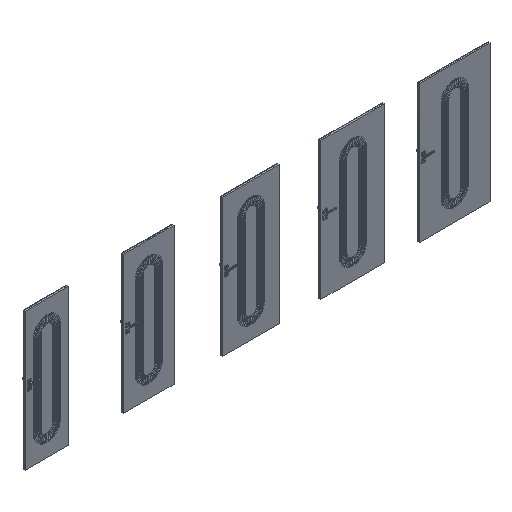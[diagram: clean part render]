
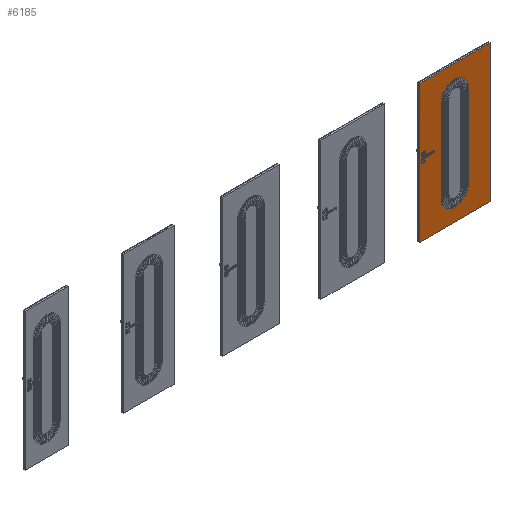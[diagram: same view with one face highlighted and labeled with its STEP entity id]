
A CAD part, isometric view. The second image highlights one B-rep face of the part: STEP entity #6185.
In plain terms, the highlighted planar face has unit normal (0, -1, 0).
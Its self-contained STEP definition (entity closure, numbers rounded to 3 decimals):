
#3721=CIRCLE('',#36410,199.);
#3722=CIRCLE('',#36411,199.);
#4513=FACE_BOUND('',#11191,.T.);
#4514=FACE_BOUND('',#11192,.T.);
#6185=ADVANCED_FACE('',(#4513,#4514),#7263,.F.);
#7263=PLANE('',#36412);
#11191=EDGE_LOOP('',(#18697,#18698,#18699,#18700));
#11192=EDGE_LOOP('',(#18701,#18702,#18703,#18704));
#18697=ORIENTED_EDGE('',*,*,#27489,.T.);
#18698=ORIENTED_EDGE('',*,*,#27490,.F.);
#18699=ORIENTED_EDGE('',*,*,#27491,.F.);
#18700=ORIENTED_EDGE('',*,*,#27492,.T.);
#18701=ORIENTED_EDGE('',*,*,#27493,.F.);
#18702=ORIENTED_EDGE('',*,*,#27494,.F.);
#18703=ORIENTED_EDGE('',*,*,#27495,.F.);
#18704=ORIENTED_EDGE('',*,*,#27496,.T.);
#23301=VERTEX_POINT('',#59420);
#23302=VERTEX_POINT('',#59421);
#23303=VERTEX_POINT('',#59423);
#23304=VERTEX_POINT('',#59425);
#23305=VERTEX_POINT('',#59428);
#23306=VERTEX_POINT('',#59429);
#23307=VERTEX_POINT('',#59431);
#23308=VERTEX_POINT('',#59433);
#27489=EDGE_CURVE('',#23301,#23302,#30409,.T.);
#27490=EDGE_CURVE('',#23303,#23302,#30410,.T.);
#27491=EDGE_CURVE('',#23304,#23303,#30411,.T.);
#27492=EDGE_CURVE('',#23304,#23301,#30412,.T.);
#27493=EDGE_CURVE('',#23305,#23306,#3721,.T.);
#27494=EDGE_CURVE('',#23307,#23305,#30413,.T.);
#27495=EDGE_CURVE('',#23308,#23307,#3722,.T.);
#27496=EDGE_CURVE('',#23308,#23306,#30414,.T.);
#30409=LINE('',#59419,#32649);
#30410=LINE('',#59422,#32650);
#30411=LINE('',#59424,#32651);
#30412=LINE('',#59426,#32652);
#30413=LINE('',#59430,#32653);
#30414=LINE('',#59434,#32654);
#32649=VECTOR('',#45378,1.);
#32650=VECTOR('',#45379,1.);
#32651=VECTOR('',#45380,1.);
#32652=VECTOR('',#45381,1.);
#32653=VECTOR('',#45384,1.);
#32654=VECTOR('',#45387,1.);
#36410=AXIS2_PLACEMENT_3D('',#59427,#45382,#45383);
#36411=AXIS2_PLACEMENT_3D('',#59432,#45385,#45386);
#36412=AXIS2_PLACEMENT_3D('',#59435,#45388,#45389);
#45378=DIRECTION('',(1.,0.,0.));
#45379=DIRECTION('',(0.,0.,-1.));
#45380=DIRECTION('',(1.,0.,0.));
#45381=DIRECTION('',(0.,0.,-1.));
#45382=DIRECTION('',(0.,-1.,0.));
#45383=DIRECTION('',(0.,0.,-1.));
#45384=DIRECTION('',(0.,0.,1.));
#45385=DIRECTION('',(0.,-1.,0.));
#45386=DIRECTION('',(0.,0.,-1.));
#45387=DIRECTION('',(0.,0.,1.));
#45388=DIRECTION('',(0.,1.,0.));
#45389=DIRECTION('',(-1.,0.,0.));
#59419=CARTESIAN_POINT('',(5680.5,-39.3,0.));
#59420=CARTESIAN_POINT('',(5480.5,-39.3,0.));
#59421=CARTESIAN_POINT('',(6519.5,-39.3,0.));
#59422=CARTESIAN_POINT('',(6519.5,-39.3,2027.));
#59423=CARTESIAN_POINT('',(6519.5,-39.3,2027.));
#59424=CARTESIAN_POINT('',(5680.5,-39.3,2027.));
#59425=CARTESIAN_POINT('',(5480.5,-39.3,2027.));
#59426=CARTESIAN_POINT('',(5480.5,-39.3,2027.));
#59427=CARTESIAN_POINT('',(6000.,-39.3,1623.));
#59428=CARTESIAN_POINT('',(6199.,-39.3,1623.));
#59429=CARTESIAN_POINT('',(5801.,-39.3,1623.));
#59430=CARTESIAN_POINT('',(6199.,-39.3,394.));
#59431=CARTESIAN_POINT('',(6199.,-39.3,394.));
#59432=CARTESIAN_POINT('',(6000.,-39.3,394.));
#59433=CARTESIAN_POINT('',(5801.,-39.3,394.));
#59434=CARTESIAN_POINT('',(5801.,-39.3,394.));
#59435=CARTESIAN_POINT('',(5680.5,-39.3,2027.));
